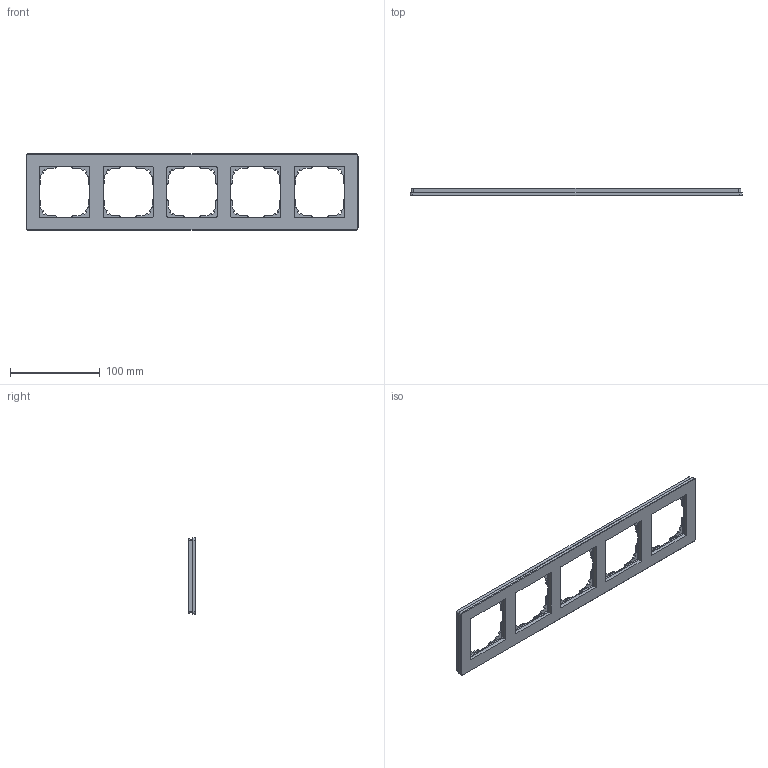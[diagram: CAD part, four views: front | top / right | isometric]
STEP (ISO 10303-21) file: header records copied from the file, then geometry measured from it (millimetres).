
FILE_DESCRIPTION(/* description */ ('','CAx-IF Rec.Pracs.---Representation and Presentation of Product Manufacturing Information (PMI)---4.0---2014-10-13'),/* implementation_level */ '2;1');
FILE_NAME(/* name */ 'FG-05.step',/* time_stamp */ '2025-02-23T19:13:14+01:00',/* author */ (''),/* organization */ (''),/* preprocessor_version */ 'ST-DEVELOPER v20',/* originating_system */ 'Autodesk Translation Framework v13.20.0.188',/* authorisation */ '');
FILE_SCHEMA (('AP242_MANAGED_MODEL_BASED_3D_ENGINEERING_MIM_LF { 1 0 10303 442 1 1 4 }'));
Products named in the file (6): zestawienie ramek; ramka szklana _5; OP-1400_05; szkło ramka_5; logo sinum-tech; farba ramka 5
Assembly tree (5 placements, depth 3):
  zestawienie ramek
    ramka szklana _5
      OP-1400_05
      szkło ramka_5
      logo sinum-tech
      farba ramka 5
Bounding box: 368.99 x 8.6 x 85 mm (x, y, z)
Volume: 100679.9 mm3; surface area: 112906.6 mm2
Topology: 20 solids, 20 shells, 1486 faces, 3981 edges, 2560 vertices
Faces by surface type: plane 739, bspline 329, cylinder 278, cone 88, sphere 52
Full cylindrical faces by diameter (mm): 0.437 x1
Entity records: 54524 total; most frequent: CARTESIAN_POINT 18784, ORIENTED_EDGE 7962, DIRECTION 6455, EDGE_CURVE 3981, LINE 2607, VECTOR 2607, VERTEX_POINT 2560, AXIS2_PLACEMENT_3D 1924
